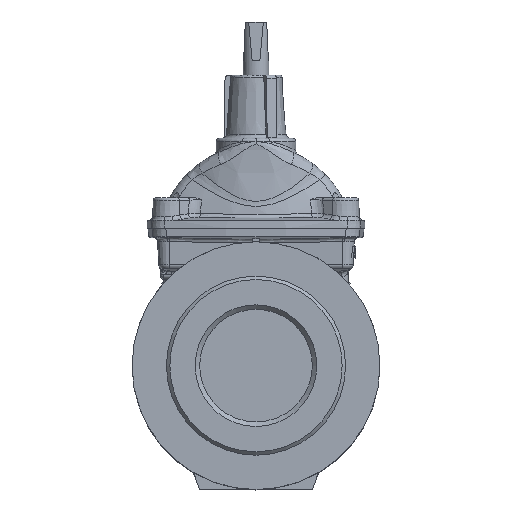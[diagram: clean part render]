
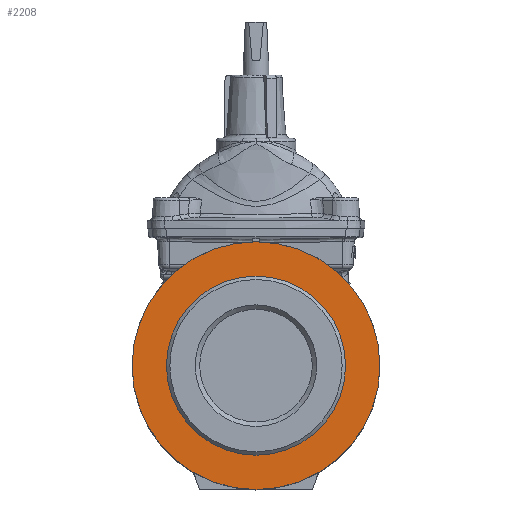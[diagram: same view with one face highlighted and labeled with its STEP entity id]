
A CAD part, top view. The second image highlights one B-rep face of the part: STEP entity #2208.
In plain terms, the highlighted planar face has unit normal (0, 0, 1).
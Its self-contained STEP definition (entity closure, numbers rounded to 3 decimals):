
#2208 = ADVANCED_FACE ( 'NONE', ( #25206, #25204 ), #7335, .T. ) ;
#4842 = EDGE_LOOP ( 'NONE', ( #14290 ) ) ;
#4923 = EDGE_LOOP ( 'NONE', ( #14042 ) ) ;
#5119 = AXIS2_PLACEMENT_3D ( 'NONE', #7336, #7329, #7328 ) ;
#5170 = AXIS2_PLACEMENT_3D ( 'NONE', #14631, #14633, #14635 ) ;
#5597 = AXIS2_PLACEMENT_3D ( 'NONE', #11197, #11198, #11199 ) ;
#7328 = DIRECTION ( 'NONE',  ( 1., 0., 0. ) ) ;
#7329 = DIRECTION ( 'NONE',  ( 0., 0., 1. ) ) ;
#7335 = PLANE ( 'NONE',  #5119 ) ;
#7336 = CARTESIAN_POINT ( 'NONE',  ( 0., 79.5, 111.5 ) ) ;
#11197 = CARTESIAN_POINT ( 'NONE',  ( 0., 0., 111.5 ) ) ;
#11198 = DIRECTION ( 'NONE',  ( 0., 0., 1. ) ) ;
#11199 = DIRECTION ( 'NONE',  ( 1., 0., 0. ) ) ;
#13008 = CARTESIAN_POINT ( 'NONE',  ( 79.5, 0., 111.5 ) ) ;
#13015 = CARTESIAN_POINT ( 'NONE',  ( 110., 0., 111.5 ) ) ;
#13448 = VERTEX_POINT ( 'NONE', #13015 ) ;
#13465 = VERTEX_POINT ( 'NONE', #13008 ) ;
#13470 = CIRCLE ( 'NONE', #5170, 110. ) ;
#14042 = ORIENTED_EDGE ( 'NONE', *, *, #28284, .T. ) ;
#14290 = ORIENTED_EDGE ( 'NONE', *, *, #27345, .F. ) ;
#14631 = CARTESIAN_POINT ( 'NONE',  ( 0., 0., 111.5 ) ) ;
#14633 = DIRECTION ( 'NONE',  ( 0., 0., 1. ) ) ;
#14635 = DIRECTION ( 'NONE',  ( 1., 0., 0. ) ) ;
#24609 = CIRCLE ( 'NONE', #5597, 79.5 ) ;
#25204 = FACE_BOUND ( 'NONE', #4842, .T. ) ;
#25206 = FACE_OUTER_BOUND ( 'NONE', #4923, .T. ) ;
#27345 = EDGE_CURVE ( 'NONE', #13465, #13465, #24609, .T. ) ;
#28284 = EDGE_CURVE ( 'NONE', #13448, #13448, #13470, .T. ) ;
